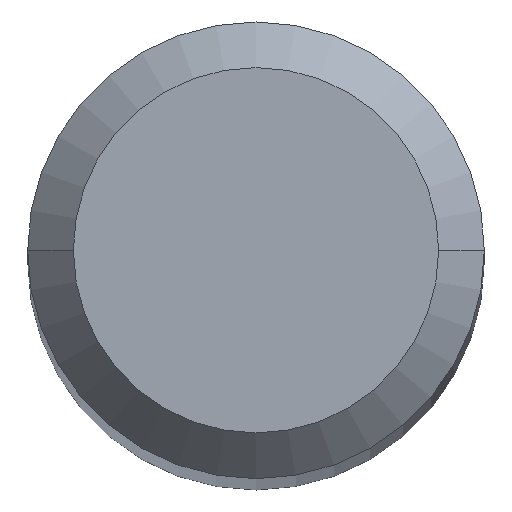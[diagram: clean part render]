
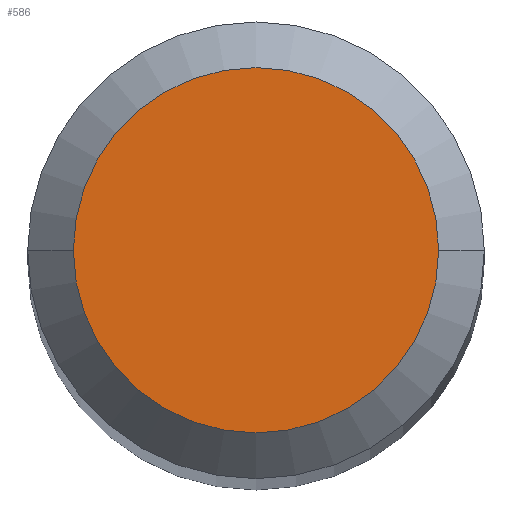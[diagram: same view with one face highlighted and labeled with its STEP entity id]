
A CAD part, top view. The second image highlights one B-rep face of the part: STEP entity #586.
In plain terms, the highlighted planar face has unit normal (0, 0, 1).
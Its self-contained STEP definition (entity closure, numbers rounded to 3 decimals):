
#2 = CIRCLE ( 'NONE', #166, 1.2 ) ;
#25 = ORIENTED_EDGE ( 'NONE', *, *, #126, .F. ) ;
#55 = CARTESIAN_POINT ( 'NONE',  ( 0., 0., 0. ) ) ;
#73 = PLANE ( 'NONE',  #599 ) ;
#86 = DIRECTION ( 'NONE',  ( 1., 0., 0. ) ) ;
#126 = EDGE_CURVE ( 'NONE', #557, #312, #2, .T. ) ;
#158 = DIRECTION ( 'NONE',  ( -1., 0., 0. ) ) ;
#166 = AXIS2_PLACEMENT_3D ( 'NONE', #55, #600, #158 ) ;
#169 = DIRECTION ( 'NONE',  ( -1., 0., 0. ) ) ;
#173 = CARTESIAN_POINT ( 'NONE',  ( -1.2, 0., 0. ) ) ;
#245 = EDGE_CURVE ( 'NONE', #312, #557, #258, .T. ) ;
#258 = CIRCLE ( 'NONE', #503, 1.2 ) ;
#273 = CARTESIAN_POINT ( 'NONE',  ( 1.2, 0., 0. ) ) ;
#312 = VERTEX_POINT ( 'NONE', #173 ) ;
#314 = DIRECTION ( 'NONE',  ( 0., 0., -1. ) ) ;
#316 = FACE_OUTER_BOUND ( 'NONE', #427, .T. ) ;
#427 = EDGE_LOOP ( 'NONE', ( #461, #25 ) ) ;
#461 = ORIENTED_EDGE ( 'NONE', *, *, #245, .F. ) ;
#503 = AXIS2_PLACEMENT_3D ( 'NONE', #561, #314, #169 ) ;
#557 = VERTEX_POINT ( 'NONE', #273 ) ;
#561 = CARTESIAN_POINT ( 'NONE',  ( 0., 0., 0. ) ) ;
#573 = CARTESIAN_POINT ( 'NONE',  ( 0., 1.2, 0. ) ) ;
#586 = ADVANCED_FACE ( 'NONE', ( #316 ), #73, .T. ) ;
#599 = AXIS2_PLACEMENT_3D ( 'NONE', #573, #615, #86 ) ;
#600 = DIRECTION ( 'NONE',  ( 0., 0., -1. ) ) ;
#615 = DIRECTION ( 'NONE',  ( 0., 0., 1. ) ) ;
